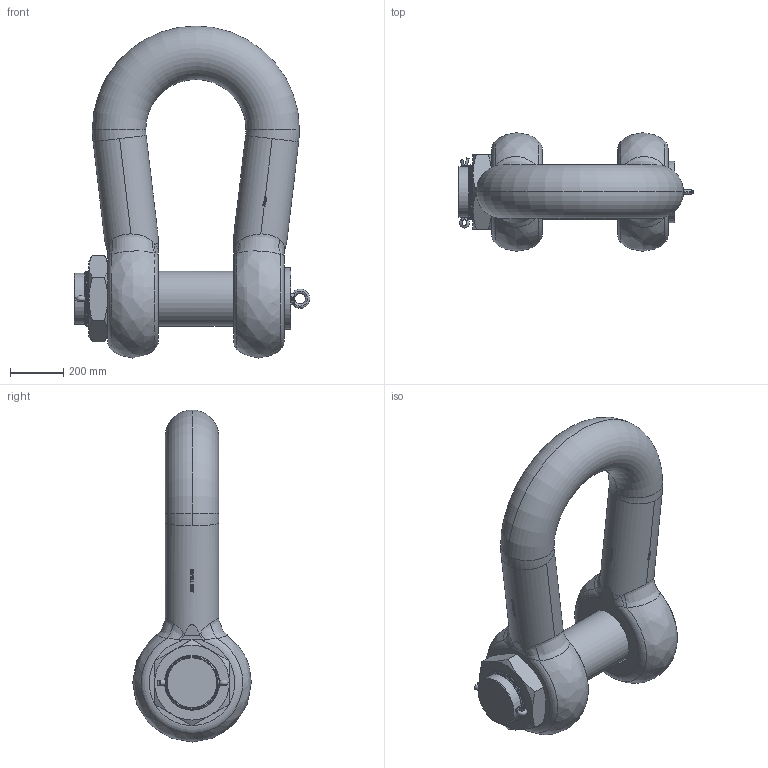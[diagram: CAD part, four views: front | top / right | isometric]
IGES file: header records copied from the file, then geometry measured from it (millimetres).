
Global section: file name: No Iges File Name specified; native system: Autodesk Inventor 2009; preprocessor: AutoDesk Inventor Iges Exporter R2009; author: Jack; date: 20091212.143945; units: millimetre
Bounding box: 881 x 444 x 1242.49 mm (x, y, z)
Volume: 121996829.4 mm3; surface area: 3018590.1 mm2
Topology: 5 solids, 5 shells, 834 faces, 2230 edges, 1463 vertices
Faces by surface type: plane 382, bspline 263, cylinder 111, revolution 36, torus 22, cone 20
Full cylindrical faces by diameter (mm): 205 x16
